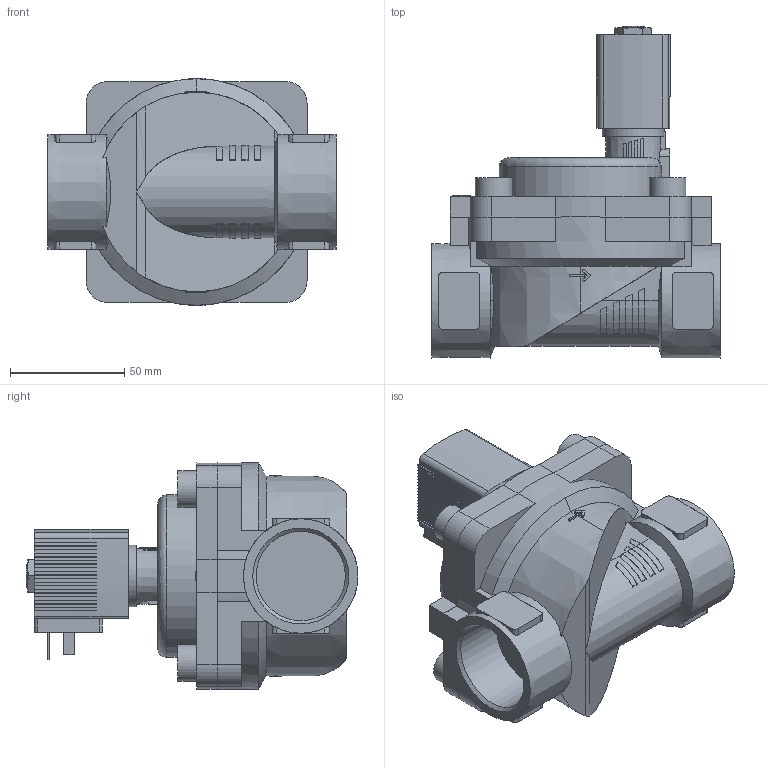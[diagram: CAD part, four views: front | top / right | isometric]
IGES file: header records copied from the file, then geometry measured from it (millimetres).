
Start section: Data from Parasolid IGES Translator 26.0.171, Copyright(c) 2006 Siemens PLM Software. All Rights Reserved.
Global section: file name: 6281-339517-2_2-Way_Solenoid_Valve__Servo-assisted__General_Purpose.igs; native system: By Siemens PLM Incorporated; preprocessor: XPlus GENERIC/IGES 26.0.171; author: Noname; organization: Noname; date: 20240621.162341; units: millimetre
Bounding box: 126 x 145 x 99 mm (x, y, z)
Surface area: 86851.9 mm2 (no closed solid volume)
Topology: 0 solids, 0 shells, 564 faces, 3192 edges, 3185 vertices
Faces by surface type: extrusion 438, revolution 126
